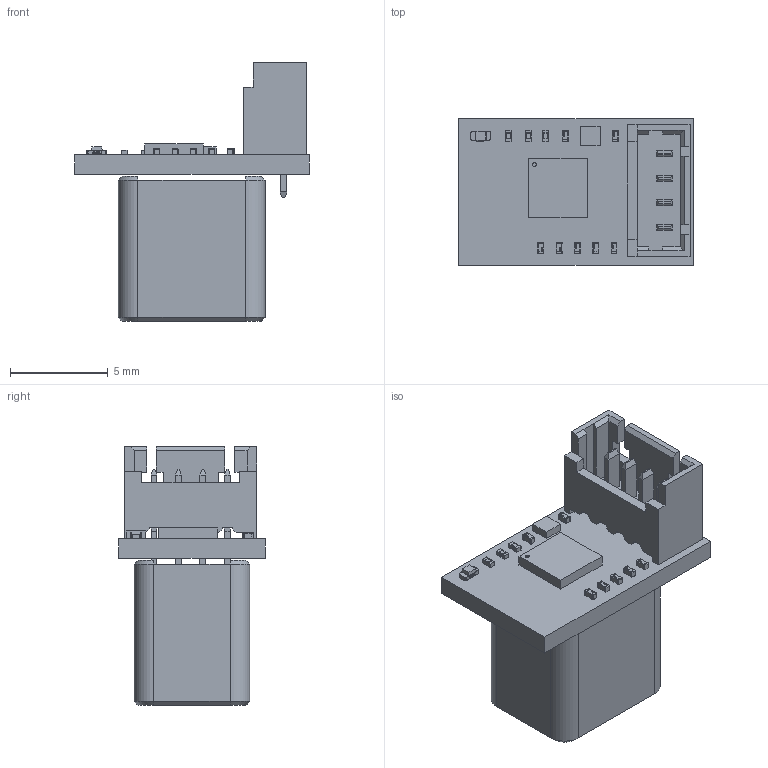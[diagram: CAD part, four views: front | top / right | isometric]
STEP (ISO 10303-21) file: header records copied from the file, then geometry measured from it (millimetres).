
FILE_DESCRIPTION(/* description */ (''),/* implementation_level */ '2;1');
FILE_NAME(/* name */ 'SDM10',/* time_stamp */ '2025-11-13T13:59:33+08:00',/* author */ (''),/* organization */ (''),/* preprocessor_version */ 'ST-DEVELOPER v19.2',/* originating_system */ 'Rhino 8.5',/* authorisation */ '');
FILE_SCHEMA (('CONFIG_CONTROL_DESIGN'));
Length unit declared in the file: millimetre
Products named in the file (1): Document
Bounding box: 11.97 x 7.47 x 13.2 mm (x, y, z)
Volume: 140.7 mm3; surface area: 758.1 mm2
Topology: 3 solids, 59 shells, 602 faces, 4076 edges, 3502 vertices
Faces by surface type: plane 386, cylinder 125, bspline 91
Entity records: 40225 total; most frequent: CARTESIAN_POINT 17820, ORIENTED_EDGE 5145, EDGE_CURVE 4061, B_SPLINE_CURVE_WITH_KNOTS 3640, VERTEX_POINT 3502, DIRECTION 1359, AXIS2_PLACEMENT_3D 935, EDGE_LOOP 788
